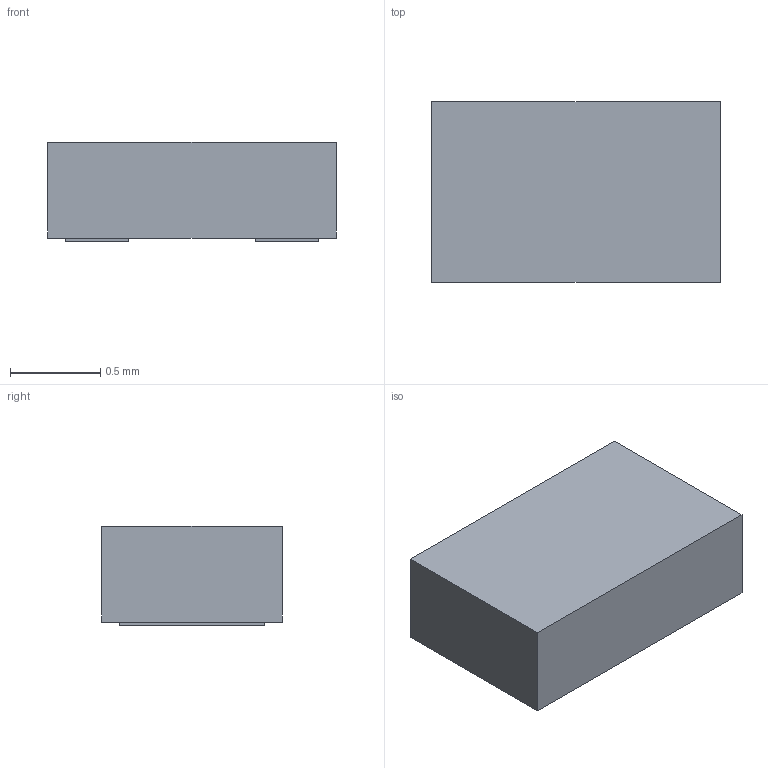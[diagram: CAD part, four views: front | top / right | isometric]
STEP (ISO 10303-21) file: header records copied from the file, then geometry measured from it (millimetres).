
FILE_DESCRIPTION(('Open CASCADE Model'),'2;1');
FILE_NAME('Open CASCADE Shape Model','2026-10-07T16:53:52',('Author'),( 'Open CASCADE'),'Open CASCADE STEP processor 7.8','Open CASCADE 7.8' ,'Unknown');
FILE_SCHEMA(('AUTOMOTIVE_DESIGN { 1 0 10303 214 1 1 1 1 }'));
Length unit declared in the file: millimetre
Products named in the file (1): Open CASCADE STEP translator 7.8 3
Bounding box: 1.6 x 1 x 0.55 mm (x, y, z)
Volume: 0.9 mm3; surface area: 6 mm2
Topology: 1 solids, 1 shells, 16 faces, 36 edges, 24 vertices
Faces by surface type: plane 16
Entity records: 902 total; most frequent: CARTESIAN_POINT 165, DIRECTION 126, LINE 92, VECTOR 92, ORIENTED_EDGE 72, PCURVE 72, DEFINITIONAL_REPRESENTATION 72, EDGE_CURVE 36
